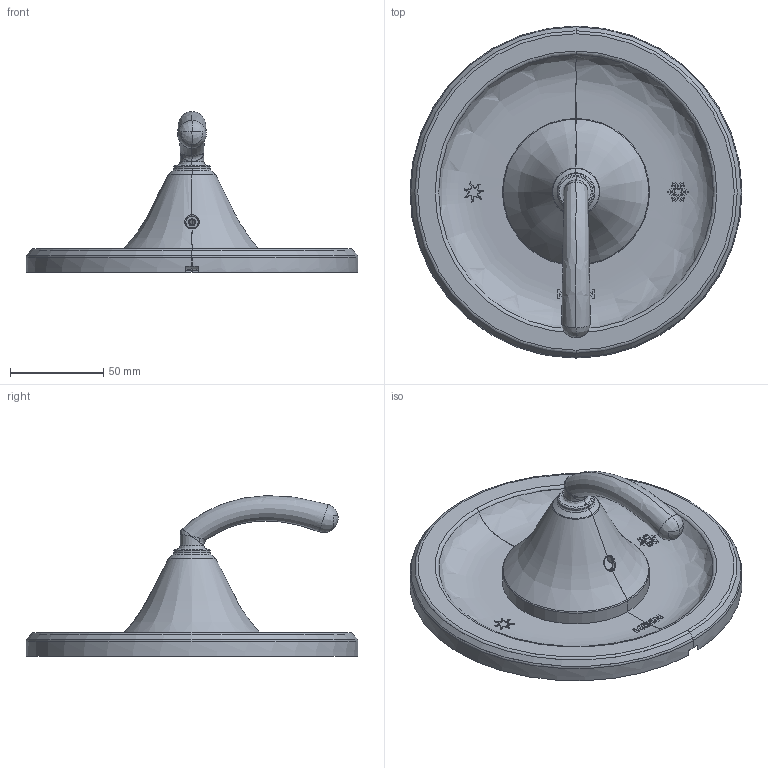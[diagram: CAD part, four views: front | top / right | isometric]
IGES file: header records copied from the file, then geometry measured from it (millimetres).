
Start section:  PTC IGES file: sku_t2154.igs
Global section: file name: sku_t2154.igs; native system: Pro/ENGINEER by Parametric Technology Corporation; preprocessor: 2006460; author: 9dutterb; organization: Unknown; date: 20071206.094214; units: inch
Bounding box: 177.8 x 177.8 x 86.1 mm (x, y, z)
Surface area: 87811.9 mm2 (no closed solid volume)
Topology: 0 solids, 0 shells, 320 faces, 1873 edges, 1871 vertices
Faces by surface type: revolution 164, bspline 156
